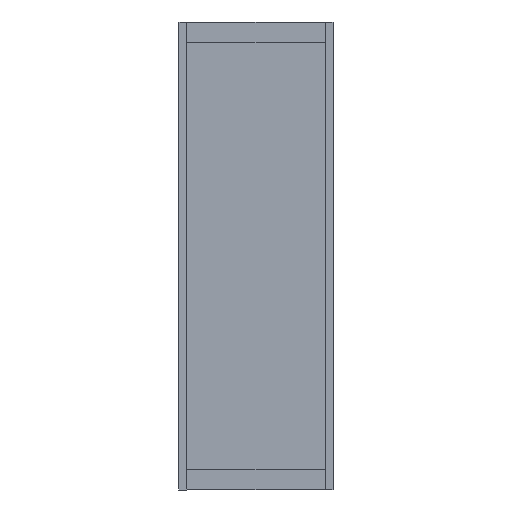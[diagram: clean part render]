
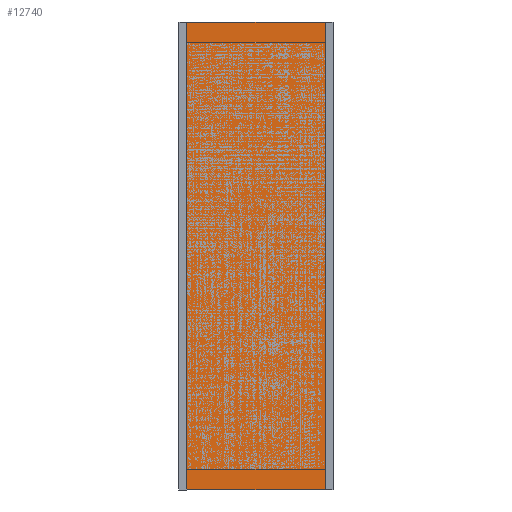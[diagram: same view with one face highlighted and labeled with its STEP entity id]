
A CAD part, front view. The second image highlights one B-rep face of the part: STEP entity #12740.
In plain terms, the highlighted planar face has unit normal (0, -1, 0) as drawn and (0, 1, 0) by its records, which use the part's own axes.
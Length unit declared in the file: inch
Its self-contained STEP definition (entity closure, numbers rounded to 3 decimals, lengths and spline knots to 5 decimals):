
#12661=DIRECTION('',(1.,0.,0.));
#12662=VECTOR('',#12661,35.875);
#12663=CARTESIAN_POINT('',(-17.9375,0.,0.));
#12664=LINE('',#12663,#12662);
#12665=DIRECTION('',(0.,0.,1.));
#12666=VECTOR('',#12665,117.86);
#12667=CARTESIAN_POINT('',(-17.9375,0.,-117.86));
#12668=LINE('',#12667,#12666);
#12669=DIRECTION('',(-1.,0.,0.));
#12670=VECTOR('',#12669,35.875);
#12671=CARTESIAN_POINT('',(17.9375,0.,-117.86));
#12672=LINE('',#12671,#12670);
#12673=DIRECTION('',(0.,0.,-1.));
#12674=VECTOR('',#12673,117.86);
#12675=CARTESIAN_POINT('',(17.9375,0.,0.));
#12676=LINE('',#12675,#12674);
#12709=CARTESIAN_POINT('',(-17.9375,0.,0.));
#12710=CARTESIAN_POINT('',(17.9375,0.,0.));
#12711=VERTEX_POINT('',#12709);
#12712=VERTEX_POINT('',#12710);
#12713=CARTESIAN_POINT('',(17.9375,0.,-117.86));
#12714=VERTEX_POINT('',#12713);
#12715=CARTESIAN_POINT('',(-17.9375,0.,-117.86));
#12716=VERTEX_POINT('',#12715);
#12725=CARTESIAN_POINT('',(0.,0.,0.));
#12726=DIRECTION('',(0.,1.,0.));
#12727=DIRECTION('',(1.,0.,0.));
#12728=AXIS2_PLACEMENT_3D('',#12725,#12726,#12727);
#12729=PLANE('',#12728);
#12731=ORIENTED_EDGE('',*,*,#12730,.F.);
#12733=ORIENTED_EDGE('',*,*,#12732,.F.);
#12735=ORIENTED_EDGE('',*,*,#12734,.F.);
#12737=ORIENTED_EDGE('',*,*,#12736,.F.);
#12738=EDGE_LOOP('',(#12731,#12733,#12735,#12737));
#12739=FACE_OUTER_BOUND('',#12738,.F.);
#12740=ADVANCED_FACE('',(#12739),#12729,.T.);
#12730=EDGE_CURVE('',#12711,#12712,#12664,.T.);
#12732=EDGE_CURVE('',#12716,#12711,#12668,.T.);
#12734=EDGE_CURVE('',#12714,#12716,#12672,.T.);
#12736=EDGE_CURVE('',#12712,#12714,#12676,.T.);
